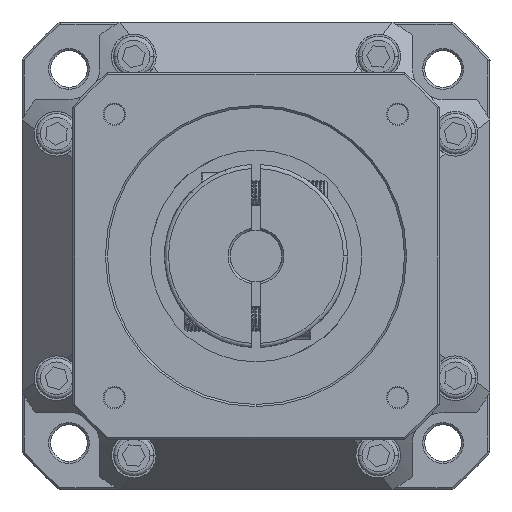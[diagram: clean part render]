
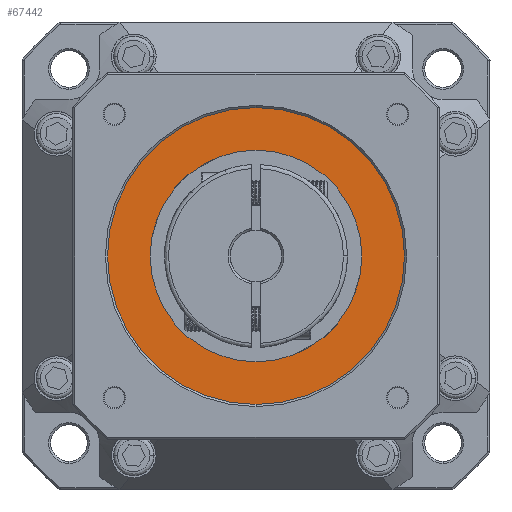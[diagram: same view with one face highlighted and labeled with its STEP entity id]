
A CAD part, front view. The second image highlights one B-rep face of the part: STEP entity #67442.
In plain terms, the highlighted planar face has unit normal (0, 1, 0).
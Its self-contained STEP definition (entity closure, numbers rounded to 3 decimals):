
#429 = CIRCLE ( 'NONE', #23045, 26. ) ;
#897 = EDGE_LOOP ( 'NONE', ( #64855, #65165 ) ) ;
#1966 = CARTESIAN_POINT ( 'NONE',  ( 0., -122.611, 26. ) ) ;
#8215 = DIRECTION ( 'NONE',  ( 0., -1., 0. ) ) ;
#8220 = DIRECTION ( 'NONE',  ( 0., -1., 0. ) ) ;
#12075 = DIRECTION ( 'NONE',  ( 0., -1., 0. ) ) ;
#13434 = AXIS2_PLACEMENT_3D ( 'NONE', #83579, #37624, #91286 ) ;
#15981 = EDGE_CURVE ( 'NONE', #35895, #41897, #429, .T. ) ;
#19648 = CIRCLE ( 'NONE', #48790, 36.5 ) ;
#23045 = AXIS2_PLACEMENT_3D ( 'NONE', #58041, #12075, #65808 ) ;
#23401 = PLANE ( 'NONE',  #91426 ) ;
#23577 = ORIENTED_EDGE ( 'NONE', *, *, #34527, .T. ) ;
#24378 = CIRCLE ( 'NONE', #82429, 26. ) ;
#28304 = CARTESIAN_POINT ( 'NONE',  ( 0., -122.611, -36.5 ) ) ;
#34219 = CIRCLE ( 'NONE', #13434, 36.5 ) ;
#34527 = EDGE_CURVE ( 'NONE', #41897, #35895, #24378, .T. ) ;
#34959 = FACE_OUTER_BOUND ( 'NONE', #897, .T. ) ;
#35895 = VERTEX_POINT ( 'NONE', #54603 ) ;
#36163 = CARTESIAN_POINT ( 'NONE',  ( 0., -122.611, 0. ) ) ;
#37424 = FACE_BOUND ( 'NONE', #85728, .T. ) ;
#37624 = DIRECTION ( 'NONE',  ( 0., 1., 0. ) ) ;
#41897 = VERTEX_POINT ( 'NONE', #1966 ) ;
#42027 = EDGE_CURVE ( 'NONE', #68696, #50269, #19648, .T. ) ;
#42350 = CARTESIAN_POINT ( 'NONE',  ( 0., -122.611, 36.5 ) ) ;
#43882 = DIRECTION ( 'NONE',  ( 0., 0., -1. ) ) ;
#48790 = AXIS2_PLACEMENT_3D ( 'NONE', #36163, #89812, #43882 ) ;
#50269 = VERTEX_POINT ( 'NONE', #42350 ) ;
#54190 = CARTESIAN_POINT ( 'NONE',  ( -36.938, -122.611, -36.938 ) ) ;
#54198 = CARTESIAN_POINT ( 'NONE',  ( 0., -122.611, 0. ) ) ;
#54603 = CARTESIAN_POINT ( 'NONE',  ( 0., -122.611, -26. ) ) ;
#58041 = CARTESIAN_POINT ( 'NONE',  ( 0., -122.611, 0. ) ) ;
#61950 = DIRECTION ( 'NONE',  ( 1., 0., 0. ) ) ;
#61956 = DIRECTION ( 'NONE',  ( 0., 0., 1. ) ) ;
#64855 = ORIENTED_EDGE ( 'NONE', *, *, #42027, .T. ) ;
#65165 = ORIENTED_EDGE ( 'NONE', *, *, #75039, .T. ) ;
#65808 = DIRECTION ( 'NONE',  ( 0., 0., 1. ) ) ;
#67442 = ADVANCED_FACE ( 'NONE', ( #37424, #34959 ), #23401, .F. ) ;
#68696 = VERTEX_POINT ( 'NONE', #28304 ) ;
#75039 = EDGE_CURVE ( 'NONE', #50269, #68696, #34219, .T. ) ;
#82429 = AXIS2_PLACEMENT_3D ( 'NONE', #54198, #8220, #61956 ) ;
#83579 = CARTESIAN_POINT ( 'NONE',  ( 0., -122.611, 0. ) ) ;
#85728 = EDGE_LOOP ( 'NONE', ( #23577, #87249 ) ) ;
#87249 = ORIENTED_EDGE ( 'NONE', *, *, #15981, .T. ) ;
#89812 = DIRECTION ( 'NONE',  ( 0., 1., 0. ) ) ;
#91286 = DIRECTION ( 'NONE',  ( 0., 0., -1. ) ) ;
#91426 = AXIS2_PLACEMENT_3D ( 'NONE', #54190, #8215, #61950 ) ;
